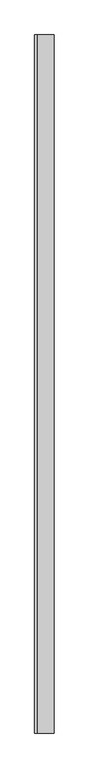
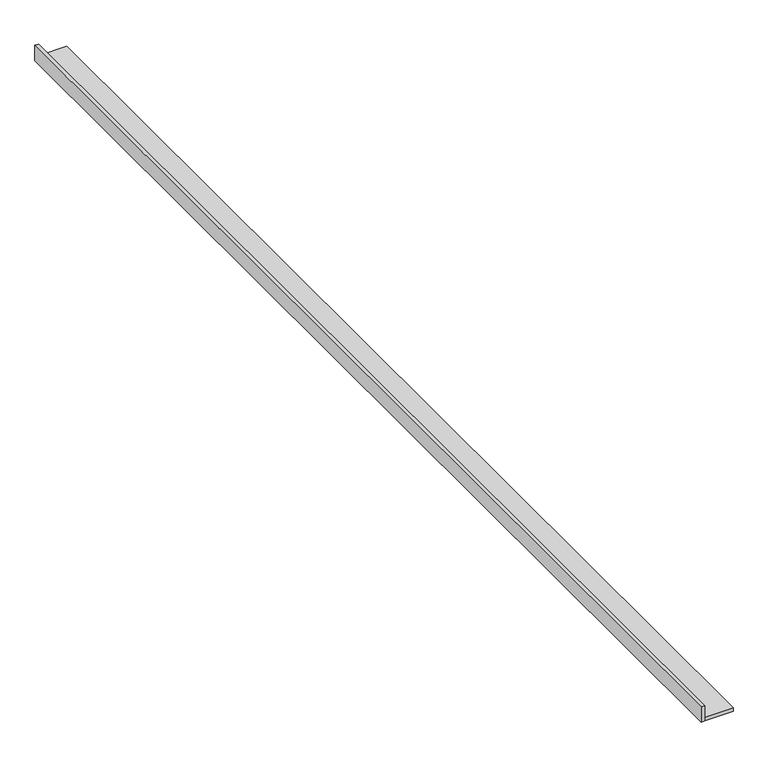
"""IFC4 building model written with IfcOpenShell, lengths in millimetres: proxy geometry, Wall-Panel-Kirei-Pulse_Fins : Pulse_1.5."""

import ifcopenshell
import ifcopenshell.guid

model = None  # the IFC model being written
_history = None  # IfcOwnerHistory: only IFC2X3 demands one
_inside = {}  # id of a spatial element -> (the spatial element, [elements in it])
_under = {}  # id of a project, library or spatial element -> (it, [spatial elements below it])
_declared = {}  # id of a project -> (the project, [libraries it declares])
_typed = {}  # id of a type object -> (the type object, [elements of that type])
_made_of = {}  # id of a material, layer set ... -> (it, [elements and type objects made of it])


def new_model(schema):
    """Start an empty IFC model of exactly this schema.

    Asked for "IFC4X3", IfcOpenShell would pick the latest addendum, in which some entities
    have other attributes; the version numbers below select the first issue.
    IFC2X3 requires an IfcOwnerHistory on every rooted entity: one is made here for all.
    """
    global model, _history
    if schema == "IFC4X3":
        model = ifcopenshell.file(schema_version=(4, 3, 0, 0))
    else:
        model = ifcopenshell.file(schema=schema)
    _inside.clear()
    _under.clear()
    _declared.clear()
    _typed.clear()
    _made_of.clear()
    _history = None
    if model.schema == "IFC2X3":
        org = make("IfcOrganization", Name="unknown")
        user = make(
            "IfcPersonAndOrganization",
            ThePerson=make("IfcPerson", FamilyName="unknown"),
            TheOrganization=org,
        )
        app = make(
            "IfcApplication",
            ApplicationDeveloper=org,
            Version="unknown",
            ApplicationFullName="unknown",
            ApplicationIdentifier="unknown",
        )
        _history = make(
            "IfcOwnerHistory",
            OwningUser=user,
            OwningApplication=app,
            ChangeAction="ADDED",
            CreationDate=0,
        )
    return model


def make(cls, **values):
    """One entity of the class cls with the attributes given. An attribute that is None is left unset."""
    return model.create_entity(
        cls, **{name: value for name, value in values.items() if value is not None}
    )


def rooted(cls, **values):
    """An entity with a GlobalId (a new one), such as an element, a storey or a relation."""
    return make(cls, GlobalId=ifcopenshell.guid.new(), OwnerHistory=_history, **values)


def si_unit(unit_type, name, prefix=None):
    """IfcSIUnit, for example si_unit("LENGTHUNIT", "METRE", prefix="MILLI")."""
    return make("IfcSIUnit", UnitType=unit_type, Prefix=prefix, Name=name)


def assignment(units):
    """IfcUnitAssignment: the units of a project."""
    return None if units is None else make("IfcUnitAssignment", Units=units)


def point(xyz):
    """IfcCartesianPoint."""
    return None if xyz is None else make("IfcCartesianPoint", Coordinates=xyz)


def direction(xyz):
    """IfcDirection."""
    return None if xyz is None else make("IfcDirection", DirectionRatios=xyz)


def frame(location, z_axis=None, x_axis=None):
    """IfcAxis2Placement3D, a coordinate frame: its origin and axes. An axis left out is left unset."""
    return make(
        "IfcAxis2Placement3D",
        Location=point(location),
        Axis=direction(z_axis),
        RefDirection=direction(x_axis),
    )


def origin():
    """The frame at (0, 0, 0) with its axes left unset."""
    return frame((0.0, 0.0, 0.0))


def origin_with_axes():
    """The frame at (0, 0, 0) with the z axis (0, 0, 1) and the x axis (1, 0, 0) written out."""
    return frame((0.0, 0.0, 0.0), z_axis=(0.0, 0.0, 1.0), x_axis=(1.0, 0.0, 0.0))


def place(relative_to, where):
    """IfcLocalPlacement: puts the frame where relative to a parent placement (None: the world)."""
    return make(
        "IfcLocalPlacement", PlacementRelTo=relative_to, RelativePlacement=where
    )


def context(
    kind, dimensions, precision=None, world=None, true_north=None, identifier=None
):
    """IfcGeometricRepresentationContext, for example the 3D "Model" context."""
    return make(
        "IfcGeometricRepresentationContext",
        ContextIdentifier=identifier,
        ContextType=kind,
        CoordinateSpaceDimension=dimensions,
        Precision=precision,
        WorldCoordinateSystem=world,
        TrueNorth=true_north,
    )


def project(units=None, contexts=None):
    """IfcProject with its units and contexts."""
    return rooted(
        "IfcProject",
        Name="project",
        RepresentationContexts=contexts,
        UnitsInContext=assignment(units),
    )


def spatial(cls, under=None, at=None, **own):
    """A site, building, storey or space (cls), placed at a placement, below another one or the project."""
    s = rooted(cls, ObjectPlacement=at, **own)
    if under is not None:
        _under.setdefault(under.id(), (under, []))[1].append(s)
    return s


def polyline(points):
    """IfcPolyline through the points."""
    return make("IfcPolyline", Points=[point(p) for p in points])


def outline(outer, holes=None, kind="AREA"):
    """IfcArbitraryClosedProfileDef: a profile drawn as a closed curve; with holes, ...WithVoids."""
    if holes is None:
        return make("IfcArbitraryClosedProfileDef", ProfileType=kind, OuterCurve=outer)
    return make(
        "IfcArbitraryProfileDefWithVoids",
        ProfileType=kind,
        OuterCurve=outer,
        InnerCurves=holes,
    )


def extrude(swept, where, along, depth):
    """IfcExtrudedAreaSolid: the profile swept, set in the frame where, extruded along a direction by depth."""
    return make(
        "IfcExtrudedAreaSolid",
        SweptArea=swept,
        Position=where,
        ExtrudedDirection=direction(along),
        Depth=depth,
    )


def shape(context_of_items, identifier, shape_type, items):
    """IfcShapeRepresentation: the items that make up one representation, for example the "Body"."""
    return make(
        "IfcShapeRepresentation",
        ContextOfItems=context_of_items,
        RepresentationIdentifier=identifier,
        RepresentationType=shape_type,
        Items=items,
    )


def source(mapping_origin, context_of_items, identifier, shape_type, items):
    """IfcRepresentationMap: a shape defined once, which mapped items show again and again."""
    return make(
        "IfcRepresentationMap",
        MappingOrigin=mapping_origin,
        MappedRepresentation=shape(context_of_items, identifier, shape_type, items),
    )


def transform(
    local_origin,
    x_axis=None,
    y_axis=None,
    z_axis=None,
    scale=None,
    scale2=None,
    scale3=None,
    uniform=True,
):
    """IfcCartesianTransformationOperator3D, or its non-uniform kind. x_axis, y_axis, z_axis: its Axis1, 2, 3."""
    if uniform:
        return make(
            "IfcCartesianTransformationOperator3D",
            Axis1=direction(x_axis),
            Axis2=direction(y_axis),
            LocalOrigin=point(local_origin),
            Scale=scale,
            Axis3=direction(z_axis),
        )
    return make(
        "IfcCartesianTransformationOperator3DnonUniform",
        Axis1=direction(x_axis),
        Axis2=direction(y_axis),
        LocalOrigin=point(local_origin),
        Scale=scale,
        Axis3=direction(z_axis),
        Scale2=scale2,
        Scale3=scale3,
    )


def mapped(mapping_source, mapping_target):
    """IfcMappedItem: shows the shape of a source again, moved by a transform."""
    return make(
        "IfcMappedItem", MappingSource=mapping_source, MappingTarget=mapping_target
    )


def made_of(thing, what):
    """Note that an element or type object is made of a material, layer set ...; save() writes the relation."""
    if what is not None:
        _made_of.setdefault(what.id(), (what, []))[1].append(thing)
    return thing


def element(
    cls,
    number,
    at=None,
    inside=None,
    cuts=None,
    type_object=None,
    material=None,
    context=None,
    identifier="Body",
    shape_type=None,
    held_by="IfcProductDefinitionShape",
    body=None,
    shapes=None,
    **own,
):
    """One element of the class cls, such as IfcWall. Its Tag is "e" and its number.

    at: its placement. inside: the storey or other place that contains it. cuts: it is an
    opening in that element (IfcRelVoidsElement). A single representation is given by context,
    identifier, shape_type and body (its items); several are given by shapes. held_by: the class
    of the entity that holds the representations. save() writes the other relations.
    """
    e = rooted(cls, Tag="e%d" % number, ObjectPlacement=at, **own)
    if body is not None:
        shapes = [shape(context, identifier, shape_type, body)]
    if shapes is not None:
        e.Representation = make(held_by, Representations=shapes)
    if inside is not None:
        _inside.setdefault(inside.id(), (inside, []))[1].append(e)
    if cuts is not None:
        rooted(
            "IfcRelVoidsElement", RelatingBuildingElement=cuts, RelatedOpeningElement=e
        )
    if type_object is not None:
        _typed.setdefault(type_object.id(), (type_object, []))[1].append(e)
    return made_of(e, material)


def aggregate(whole, parts):
    """IfcRelAggregates: a whole, such as a stair, and the parts it consists of."""
    return rooted("IfcRelAggregates", RelatingObject=whole, RelatedObjects=parts)


def save(model, path):
    """Write the relations noted so far, then the file.

    IfcRelAggregates (storeys below a building ...), IfcRelContainedInSpatialStructure (elements
    in a storey), IfcRelDefinesByType, IfcRelAssociatesMaterial and IfcRelDeclares: one each for
    every whole, place, type object, material and project.
    """
    for whole, parts in _under.values():
        aggregate(whole, parts)
    for where, things in _inside.values():
        rooted(
            "IfcRelContainedInSpatialStructure",
            RelatedElements=things,
            RelatingStructure=where,
        )
    for kind, things in _typed.values():
        rooted("IfcRelDefinesByType", RelatedObjects=things, RelatingType=kind)
    for what, things in _made_of.values():
        rooted("IfcRelAssociatesMaterial", RelatedObjects=things, RelatingMaterial=what)
    for by, libraries in _declared.values():
        rooted("IfcRelDeclares", RelatingContext=by, RelatedDefinitions=libraries)
    model.write(path)


def specialty_equipment_e1464342(model_context):
    return source(origin(), model_context, "Body", "SweptSolid", [
        extrude(outline(polyline([(-600.5710938, 1371.6), (-600.5710938, -1371.6), (-609.6, -1371.6), (-609.6, 1371.6), (-600.5710938, 1371.6)])), origin_with_axes(), (0.0, 0.0, 1.0), 38.1),
        extrude(outline(polyline([(-533.5984375, 1371.6), (-533.5984375, -1371.6), (-600.5710937, -1371.6), (-600.5710937, 1371.6), (-533.5984375, 1371.6)])), origin_with_axes(), (0.0, 0.0, 1.0), 9.0289062),
    ])


if __name__ == "__main__":
    model = new_model("IFC4")
    model_context = context("Model", 3, world=origin())
    ifc_project = project(units=[si_unit("LENGTHUNIT", "METRE", prefix="MILLI")], contexts=[model_context])
    site = spatial("IfcSite", under=ifc_project)
    building = spatial("IfcBuilding", under=site)
    placement = place(None, origin())
    specialty_equipment_shape = specialty_equipment_e1464342(model_context)
    element("IfcBuildingElementProxy", 1, Name="Wall-Panel-Kirei-Pulse_Fins : Pulse_1.5", ObjectType="Wall-Panel-Kirei-Pulse_Fins : Pulse_1.5", at=placement, inside=building, context=model_context, shape_type="MappedRepresentation", body=[
        mapped(specialty_equipment_shape, transform((0.0, 0.0, 0.0), x_axis=(1.0, 0.0, 0.0), y_axis=(0.0, 1.0, 0.0), z_axis=(0.0, 0.0, 1.0))),
    ])
    save(model, "model.ifc")
